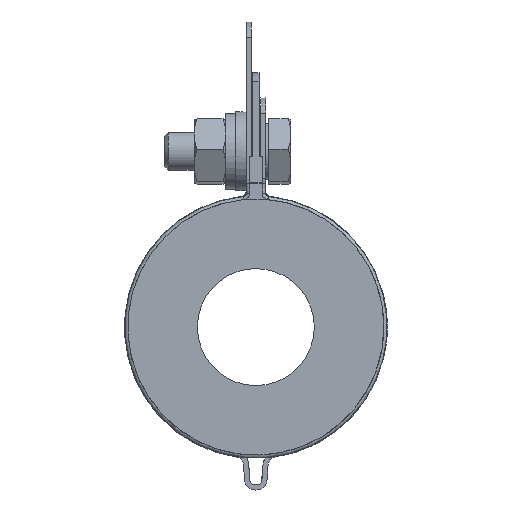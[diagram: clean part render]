
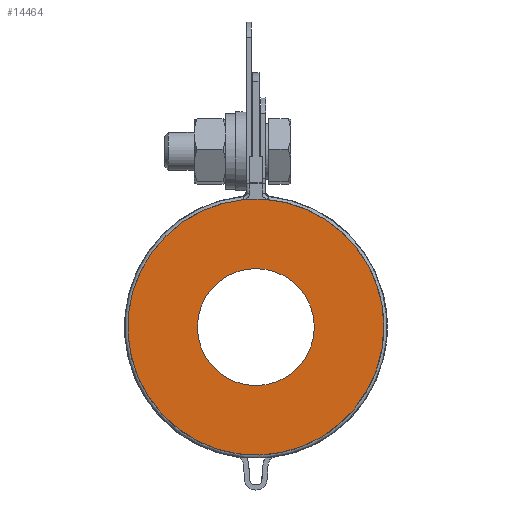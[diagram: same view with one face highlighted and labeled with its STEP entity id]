
A CAD part, front view. The second image highlights one B-rep face of the part: STEP entity #14464.
In plain terms, the highlighted planar face has unit normal (0, -1, 0).
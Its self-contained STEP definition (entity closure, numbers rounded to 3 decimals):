
#302=FACE_BOUND($,#2235,.T.);
#1261=FACE_OUTER_BOUND($,#2234,.T.);
#2234=EDGE_LOOP($,(#12213));
#2235=EDGE_LOOP($,(#12214));
#5269=CIRCLE($,#15794,20.25);
#5274=CIRCLE($,#15926,9.25);
#6521=VERTEX_POINT($,#24207);
#6532=VERTEX_POINT($,#24360);
#8414=EDGE_CURVE($,#6521,#6521,#5269,.T.);
#8429=EDGE_CURVE($,#6532,#6532,#5274,.T.);
#12213=ORIENTED_EDGE($,*,*,#8414,.T.);
#12214=ORIENTED_EDGE($,*,*,#8429,.T.);
#12869=PLANE($,#15929);
#14464=ADVANCED_FACE($,(#1261,#302),#12869,.T.);
#15794=AXIS2_PLACEMENT_3D($,#24208,#19733,#19734);
#15926=AXIS2_PLACEMENT_3D($,#24361,#20007,#20008);
#15929=AXIS2_PLACEMENT_3D($,#24364,#20013,#20014);
#19733=DIRECTION('center_axis',(0.,-1.,0.));
#19734=DIRECTION('ref_axis',(-1.,0.,0.));
#20007=DIRECTION('center_axis',(0.,1.,0.));
#20008=DIRECTION('ref_axis',(1.,0.,0.));
#20013=DIRECTION('center_axis',(0.,-1.,0.));
#20014=DIRECTION('ref_axis',(0.,0.,-1.));
#24207=CARTESIAN_POINT('',(20.25,0.,0.));
#24208=CARTESIAN_POINT('Origin',(0.,0.,0.));
#24360=CARTESIAN_POINT('',(-9.25,0.,0.));
#24361=CARTESIAN_POINT('Origin',(0.,0.,0.));
#24364=CARTESIAN_POINT('Origin',(0.,0.,0.));
